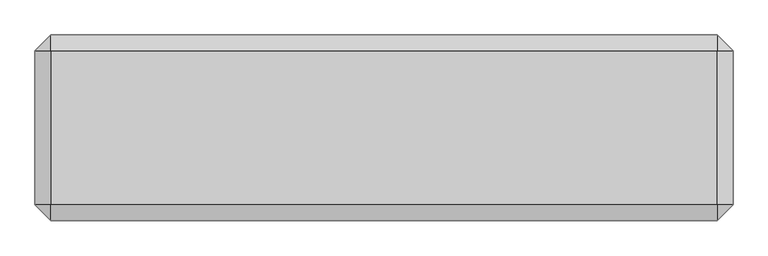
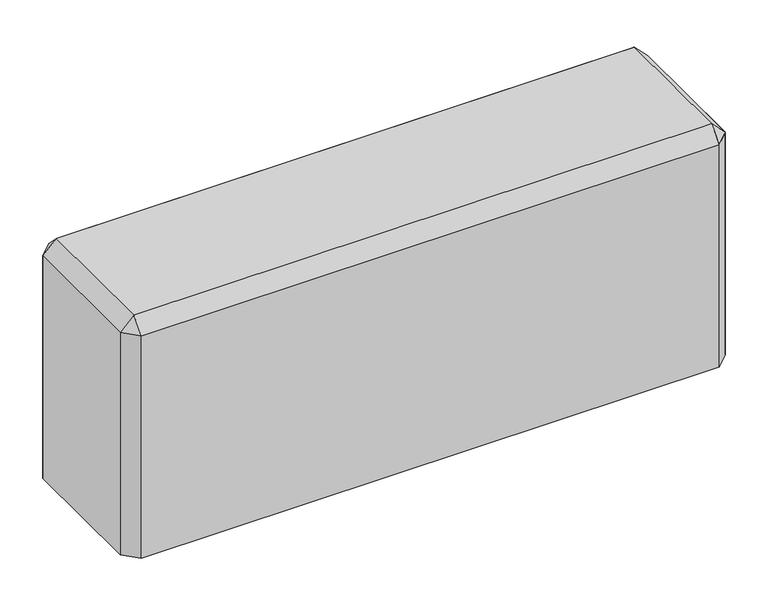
"""IFC4 building model written with IfcOpenShell, lengths in millimetres: geographic element geometry, Enscape AssetDefinition - Hedge 014 Modular : Enscape AssetDefinition - Hedge 014 Modular."""

from ifc_helpers import new_model, si_unit, origin, place, context, project, spatial, triangles, source, transform, mapped, element, save


def geographic_element_3e6169c2(model_context):
    return source(origin(), model_context, "Body", "Tessellation", [
        triangles([(949.7424648, -270.5486931, 0.0), (-949.7424648, -270.5486931, 773.2064381), (-949.7424648, -270.5486931, 0.0), (949.7424648, -270.5486931, 773.2064381), (-949.7424648, -225.882506, 817.8726797), (-994.4086338, -225.882506, 0.0), (-994.4086338, -225.882506, 773.2064381), (-949.7424648, 213.7658582, 817.8726797), (-949.7424648, 258.4320817, 773.2064381), (-994.4086338, 213.7658582, 773.2064381), (-994.4086338, 213.7658582, 0.0), (949.7424648, -225.882506, 817.8726797), (994.4086338, 213.7658582, 773.2064381), (949.7424648, 213.7658582, 817.8726797), (949.7424648, 258.4320817, 773.2064381), (-949.7424648, 258.4320817, 0.0), (949.7424648, 258.4320817, 0.0), (994.4086338, 213.7658582, 0.0), (994.4086338, -225.882506, 773.2064381), (994.4086338, -225.882506, 0.0)], [[18, 19, 20], [18, 13, 19], [18, 17, 15], [18, 15, 13], [16, 15, 17], [16, 9, 15], [9, 14, 15], [13, 15, 14], [13, 14, 12], [13, 12, 19], [9, 8, 14], [12, 14, 8], [16, 11, 10], [16, 10, 9], [10, 8, 9], [6, 10, 11], [6, 7, 10], [7, 8, 10], [7, 5, 8], [12, 8, 5], [4, 12, 5], [4, 19, 12], [2, 7, 6], [4, 5, 2], [7, 2, 5], [2, 6, 3], [19, 4, 1], [1, 4, 2], [19, 1, 20], [1, 2, 3]], closed=False),
    ])


if __name__ == "__main__":
    model = new_model("IFC4")
    model_context = context("Model", 3, world=origin())
    ifc_project = project(units=[si_unit("LENGTHUNIT", "METRE", prefix="MILLI")], contexts=[model_context])
    site = spatial("IfcSite", under=ifc_project)
    building = spatial("IfcBuilding", under=site)
    placement = place(None, origin())
    geographic_element_shape = geographic_element_3e6169c2(model_context)
    element("IfcGeographicElement", 1, ObjectType="Enscape AssetDefinition - Hedge 014 Modular : Enscape AssetDefinition - Hedge 014 Modular", at=placement, inside=building, context=model_context, shape_type="MappedRepresentation", body=[
        mapped(geographic_element_shape, transform((0.0, 0.0, 0.0), x_axis=(1.0, 0.0, 0.0), y_axis=(0.0, 1.0, 0.0), z_axis=(0.0, 0.0, 1.0))),
    ])
    save(model, "model.ifc")
